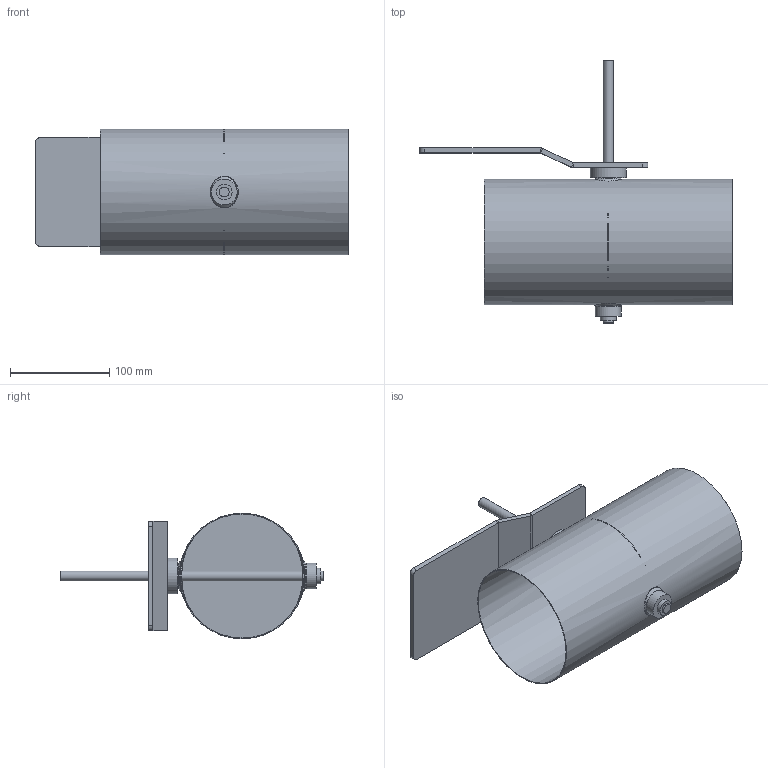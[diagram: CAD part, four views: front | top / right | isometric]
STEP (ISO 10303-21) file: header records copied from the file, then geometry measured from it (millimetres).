
FILE_DESCRIPTION(/* description */ (''),/* implementation_level */ '2;1');
FILE_NAME(/* name */ 'AA122-80B__125_L250_Belimo_Typen_NF_SF.stp',/* time_stamp */ '2017-12-05T13:53:30+01:00',/* author */ (''),/* organization */ (''),/* preprocessor_version */ 'ST-DEVELOPER v11',/* originating_system */ 'SIEMENS UGS NX 6.0',/* authorisation */ '');
FILE_SCHEMA (('CONFIG_CONTROL_DESIGN'));
Length unit declared in the file: millimetre
Products named in the file (1): gars1E3Bhijl
Bounding box: 315 x 264 x 126.6 mm (x, y, z)
Volume: 256834.1 mm3; surface area: 295375.3 mm2
Topology: 8 solids, 8 shells, 82 faces, 174 edges, 114 vertices
Faces by surface type: plane 40, cylinder 30, cone 4, bspline 4, torus 4
Full cylindrical faces by diameter (mm): 4.1 x4, 10 x3, 15 x3, 15.85 x2, 16 x2, 24 x2, 26 x1, 36 x1, 125 x1, 126.6 x1
Entity records: 2616 total; most frequent: CARTESIAN_POINT 935, DIRECTION 342, ORIENTED_EDGE 248, AXIS2_PLACEMENT_3D 147, EDGE_LOOP 144, EDGE_CURVE 124, FACE_BOUND 114, VERTEX_POINT 96
